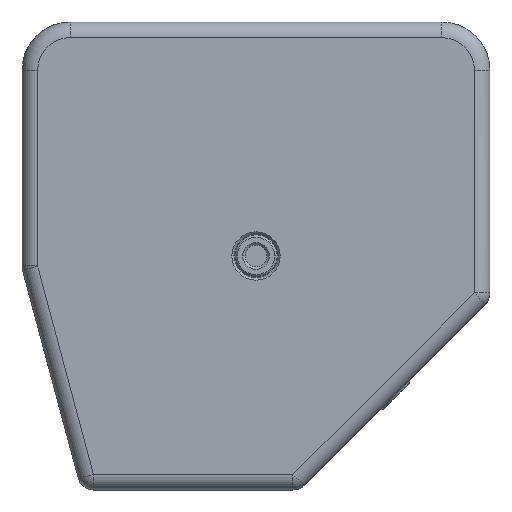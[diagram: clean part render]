
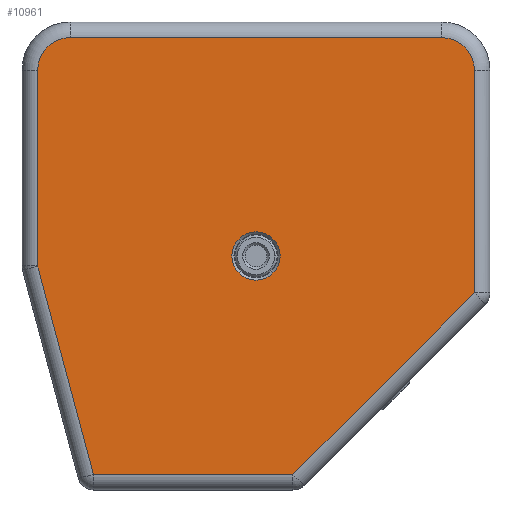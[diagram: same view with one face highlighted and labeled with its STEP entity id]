
A CAD part, front view. The second image highlights one B-rep face of the part: STEP entity #10961.
In plain terms, the highlighted planar face has unit normal (0, -1, 0) as drawn and (0, 0, -1) by its records, which use the part's own axes.
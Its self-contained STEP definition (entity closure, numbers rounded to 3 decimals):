
#798 = VERTEX_POINT ( 'NONE', #3241 ) ;
#809 = EDGE_CURVE ( 'NONE', #798, #811, #3287, .T. ) ;
#811 = VERTEX_POINT ( 'NONE', #3275 ) ;
#1034 = EDGE_CURVE ( 'NONE', #2673, #1060, #3716, .T. ) ;
#1060 = VERTEX_POINT ( 'NONE', #3804 ) ;
#1089 = EDGE_CURVE ( 'NONE', #2769, #2673, #3867, .T. ) ;
#1097 = EDGE_CURVE ( 'NONE', #811, #798, #3855, .T. ) ;
#1111 = EDGE_CURVE ( 'NONE', #1124, #2769, #3903, .T. ) ;
#1124 = VERTEX_POINT ( 'NONE', #3946 ) ;
#2673 = VERTEX_POINT ( 'NONE', #4881 ) ;
#2769 = VERTEX_POINT ( 'NONE', #5042 ) ;
#3241 = CARTESIAN_POINT ( 'NONE',  ( 107., 97., -12. ) ) ;
#3275 = CARTESIAN_POINT ( 'NONE',  ( 87., 97., -12. ) ) ;
#3283 = DIRECTION ( 'NONE',  ( -1., 0., 0. ) ) ;
#3284 = DIRECTION ( 'NONE',  ( 0., 0., -1. ) ) ;
#3285 = CARTESIAN_POINT ( 'NONE',  ( 97., 97., -12. ) ) ;
#3286 = AXIS2_PLACEMENT_3D ( 'NONE', #3285, #3284, #3283 ) ;
#3287 = CIRCLE ( 'NONE', #3286, 10. ) ;
#3714 = DIRECTION ( 'NONE',  ( -0.259, -0.966, 0. ) ) ;
#3715 = CARTESIAN_POINT ( 'NONE',  ( 29.639, 187.5, -12. ) ) ;
#3716 = LINE ( 'NONE', #3715, #3780 ) ;
#3780 = VECTOR ( 'NONE', #3714, 1000. ) ;
#3804 = CARTESIAN_POINT ( 'NONE',  ( 6.5, 101.144, -12. ) ) ;
#3850 = DIRECTION ( 'NONE',  ( -1., 0., 0. ) ) ;
#3852 = DIRECTION ( 'NONE',  ( 0., 0., -1. ) ) ;
#3853 = CARTESIAN_POINT ( 'NONE',  ( 97., 97., -12. ) ) ;
#3854 = AXIS2_PLACEMENT_3D ( 'NONE', #3853, #3852, #3850 ) ;
#3855 = CIRCLE ( 'NONE', #3854, 10. ) ;
#3864 = DIRECTION ( 'NONE',  ( -1., 0., 0. ) ) ;
#3865 = VECTOR ( 'NONE', #3864, 1000. ) ;
#3866 = CARTESIAN_POINT ( 'NONE',  ( 91.565, 187.5, -12. ) ) ;
#3867 = LINE ( 'NONE', #3866, #3865 ) ;
#3900 = DIRECTION ( 'NONE',  ( -0.707, 0.707, 0. ) ) ;
#3901 = VECTOR ( 'NONE', #3900, 1000. ) ;
#3902 = CARTESIAN_POINT ( 'NONE',  ( 187.5, 112.308, -12. ) ) ;
#3903 = LINE ( 'NONE', #3902, #3901 ) ;
#3946 = CARTESIAN_POINT ( 'NONE',  ( 187.5, 112.308, -12. ) ) ;
#4881 = CARTESIAN_POINT ( 'NONE',  ( 29.639, 187.5, -12. ) ) ;
#5042 = CARTESIAN_POINT ( 'NONE',  ( 112.308, 187.5, -12. ) ) ;
#6491 = DIRECTION ( 'NONE',  ( 0., -1., 0. ) ) ;
#6492 = VECTOR ( 'NONE', #6491, 1000. ) ;
#6493 = CARTESIAN_POINT ( 'NONE',  ( 6.5, 42.836, -12. ) ) ;
#6494 = LINE ( 'NONE', #6493, #6492 ) ;
#8320 = DIRECTION ( 'NONE',  ( 1., 0., 0. ) ) ;
#8321 = VECTOR ( 'NONE', #8320, 1000. ) ;
#8322 = CARTESIAN_POINT ( 'NONE',  ( 91.565, 6.5, -12. ) ) ;
#8323 = LINE ( 'NONE', #8322, #8321 ) ;
#8325 = CARTESIAN_POINT ( 'NONE',  ( 174., 6.5, -12. ) ) ;
#8360 =( BOUNDED_CURVE ( )  B_SPLINE_CURVE ( 3, ( #8423, #8422, #8421, #8420 ),
 .UNSPECIFIED., .F., .F. ) 
 B_SPLINE_CURVE_WITH_KNOTS ( ( 4, 4 ),
 ( 0., 1. ),
 .UNSPECIFIED. ) 
 CURVE ( )  GEOMETRIC_REPRESENTATION_ITEM ( )  RATIONAL_B_SPLINE_CURVE ( ( 1., 0.805, 0.805, 1. ) ) 
 REPRESENTATION_ITEM ( '' )  );
#8415 = CARTESIAN_POINT ( 'NONE',  ( 20., 6.5, -12. ) ) ;
#8417 = CARTESIAN_POINT ( 'NONE',  ( 6.5, 20., -12. ) ) ;
#8420 = CARTESIAN_POINT ( 'NONE',  ( 20., 6.5, -12. ) ) ;
#8421 = CARTESIAN_POINT ( 'NONE',  ( 12.092, 6.5, -12. ) ) ;
#8422 = CARTESIAN_POINT ( 'NONE',  ( 6.5, 12.092, -12. ) ) ;
#8423 = CARTESIAN_POINT ( 'NONE',  ( 6.5, 20., -12. ) ) ;
#8498 = DIRECTION ( 'NONE',  ( 1., 0., 0. ) ) ;
#8499 = DIRECTION ( 'NONE',  ( 0., 0., 1. ) ) ;
#8500 = CARTESIAN_POINT ( 'NONE',  ( 91.565, 65.672, -12. ) ) ;
#8501 = AXIS2_PLACEMENT_3D ( 'NONE', #8500, #8499, #8498 ) ;
#8502 = PLANE ( 'NONE',  #8501 ) ;
#8504 = FACE_OUTER_BOUND ( 'NONE', #9805, .T. ) ;
#8508 = FACE_BOUND ( 'NONE', #10944, .T. ) ;
#8629 =( BOUNDED_CURVE ( )  B_SPLINE_CURVE ( 3, ( #8687, #8686, #8685, #8684 ),
 .UNSPECIFIED., .F., .T. ) 
 B_SPLINE_CURVE_WITH_KNOTS ( ( 4, 4 ),
 ( 0., 1. ),
 .UNSPECIFIED. ) 
 CURVE ( )  GEOMETRIC_REPRESENTATION_ITEM ( )  RATIONAL_B_SPLINE_CURVE ( ( 1., 0.805, 0.805, 1. ) ) 
 REPRESENTATION_ITEM ( '' )  );
#8636 = CARTESIAN_POINT ( 'NONE',  ( 187.5, 20., -12. ) ) ;
#8671 = DIRECTION ( 'NONE',  ( 0., 1., 0. ) ) ;
#8672 = VECTOR ( 'NONE', #8671, 1000. ) ;
#8673 = CARTESIAN_POINT ( 'NONE',  ( 187.5, 90.336, -12. ) ) ;
#8674 = LINE ( 'NONE', #8673, #8672 ) ;
#8684 = CARTESIAN_POINT ( 'NONE',  ( 187.5, 20., -12. ) ) ;
#8685 = CARTESIAN_POINT ( 'NONE',  ( 187.5, 12.092, -12. ) ) ;
#8686 = CARTESIAN_POINT ( 'NONE',  ( 181.908, 6.5, -12. ) ) ;
#8687 = CARTESIAN_POINT ( 'NONE',  ( 174., 6.5, -12. ) ) ;
#9790 = ORIENTED_EDGE ( 'NONE', *, *, #10856, .F. ) ;
#9804 = ORIENTED_EDGE ( 'NONE', *, *, #11025, .F. ) ;
#9805 = EDGE_LOOP ( 'NONE', ( #9804, #9790, #9868, #9869, #11053, #11043, #11050, #11044 ) ) ;
#9868 = ORIENTED_EDGE ( 'NONE', *, *, #10902, .F. ) ;
#9869 = ORIENTED_EDGE ( 'NONE', *, *, #9871, .F. ) ;
#9871 = EDGE_CURVE ( 'NONE', #1060, #10906, #6494, .T. ) ;
#10853 = VERTEX_POINT ( 'NONE', #8325 ) ;
#10856 = EDGE_CURVE ( 'NONE', #10909, #10853, #8323, .T. ) ;
#10900 = ORIENTED_EDGE ( 'NONE', *, *, #809, .F. ) ;
#10902 = EDGE_CURVE ( 'NONE', #10906, #10909, #8360, .T. ) ;
#10906 = VERTEX_POINT ( 'NONE', #8417 ) ;
#10909 = VERTEX_POINT ( 'NONE', #8415 ) ;
#10931 = ORIENTED_EDGE ( 'NONE', *, *, #1097, .F. ) ;
#10944 = EDGE_LOOP ( 'NONE', ( #10931, #10900 ) ) ;
#10961 = ADVANCED_FACE ( 'NONE', ( #8508, #8504 ), #8502, .F. ) ;
#11023 = VERTEX_POINT ( 'NONE', #8636 ) ;
#11025 = EDGE_CURVE ( 'NONE', #10853, #11023, #8629, .T. ) ;
#11030 = EDGE_CURVE ( 'NONE', #11023, #1124, #8674, .T. ) ;
#11043 = ORIENTED_EDGE ( 'NONE', *, *, #1089, .F. ) ;
#11044 = ORIENTED_EDGE ( 'NONE', *, *, #11030, .F. ) ;
#11050 = ORIENTED_EDGE ( 'NONE', *, *, #1111, .F. ) ;
#11053 = ORIENTED_EDGE ( 'NONE', *, *, #1034, .F. ) ;
